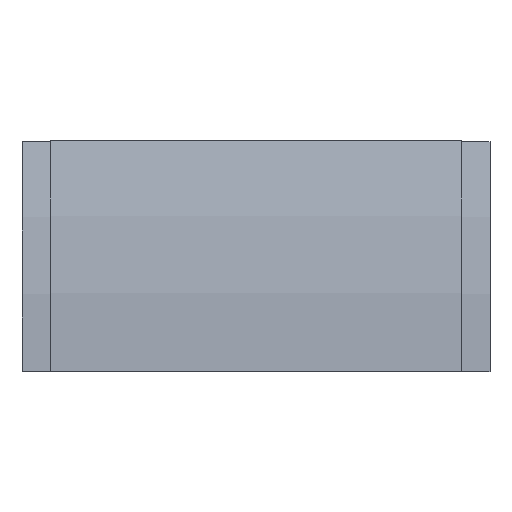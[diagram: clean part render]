
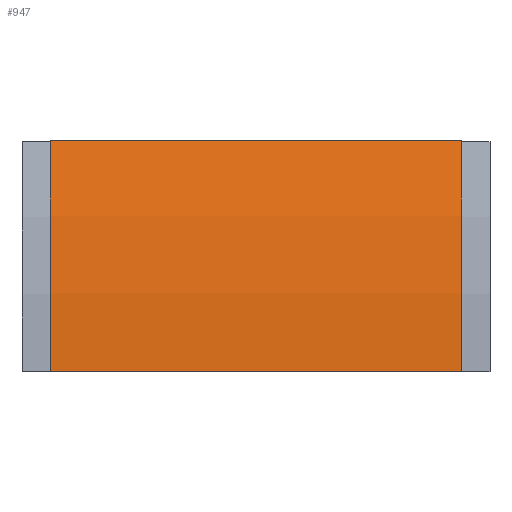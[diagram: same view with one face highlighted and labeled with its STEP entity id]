
A CAD part, front view. The second image highlights one B-rep face of the part: STEP entity #947.
In plain terms, the highlighted cylindrical face has radius 568 mm (diameter 1136 mm), a partial arc.
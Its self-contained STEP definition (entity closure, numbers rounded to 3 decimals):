
#16 = CARTESIAN_POINT ( 'NONE',  ( -152., -68., 0. ) ) ;
#25 = CARTESIAN_POINT ( 'NONE',  ( 152., -68., 0. ) ) ;
#28 = CARTESIAN_POINT ( 'NONE',  ( -152., -41.711, 170.801 ) ) ;
#31 = CARTESIAN_POINT ( 'NONE',  ( 152., -41.711, 170.801 ) ) ;
#125 = DIRECTION ( 'NONE',  ( 0., 0., -1. ) ) ;
#152 = CARTESIAN_POINT ( 'NONE',  ( 0., 500., 0. ) ) ;
#287 = DIRECTION ( 'NONE',  ( 1., 0., 0. ) ) ;
#288 = CARTESIAN_POINT ( 'NONE',  ( -152., -68., 0. ) ) ;
#289 = DIRECTION ( 'NONE',  ( 0., 0., -1. ) ) ;
#290 = DIRECTION ( 'NONE',  ( 1., 0., 0. ) ) ;
#291 = CARTESIAN_POINT ( 'NONE',  ( 152., 500., 0. ) ) ;
#293 = CARTESIAN_POINT ( 'NONE',  ( -152., -41.711, 170.801 ) ) ;
#306 = DIRECTION ( 'NONE',  ( 0., 0., -1. ) ) ;
#307 = DIRECTION ( 'NONE',  ( 1., 0., 0. ) ) ;
#308 = CARTESIAN_POINT ( 'NONE',  ( -152., 500., 0. ) ) ;
#310 = DIRECTION ( 'NONE',  ( 1., 0., 0. ) ) ;
#359 = DIRECTION ( 'NONE',  ( 1., 0., 0. ) ) ;
#466 = VECTOR ( 'NONE', #287, 1000. ) ;
#482 = VECTOR ( 'NONE', #310, 1000. ) ;
#483 = LINE ( 'NONE', #288, #466 ) ;
#490 = CYLINDRICAL_SURFACE ( 'NONE', #841, 568. ) ;
#497 = FACE_OUTER_BOUND ( 'NONE', #779, .T. ) ;
#500 = CIRCLE ( 'NONE', #869, 568. ) ;
#503 = LINE ( 'NONE', #293, #482 ) ;
#505 = CIRCLE ( 'NONE', #871, 568. ) ;
#660 = ORIENTED_EDGE ( 'NONE', *, *, #918, .F. ) ;
#690 = ORIENTED_EDGE ( 'NONE', *, *, #919, .F. ) ;
#691 = ORIENTED_EDGE ( 'NONE', *, *, #915, .T. ) ;
#703 = ORIENTED_EDGE ( 'NONE', *, *, #920, .T. ) ;
#751 = VERTEX_POINT ( 'NONE', #31 ) ;
#753 = VERTEX_POINT ( 'NONE', #28 ) ;
#755 = VERTEX_POINT ( 'NONE', #25 ) ;
#759 = VERTEX_POINT ( 'NONE', #16 ) ;
#779 = EDGE_LOOP ( 'NONE', ( #660, #690, #691, #703 ) ) ;
#841 = AXIS2_PLACEMENT_3D ( 'NONE', #152, #359, #125 ) ;
#869 = AXIS2_PLACEMENT_3D ( 'NONE', #291, #290, #289 ) ;
#871 = AXIS2_PLACEMENT_3D ( 'NONE', #308, #307, #306 ) ;
#915 = EDGE_CURVE ( 'NONE', #753, #759, #505, .T. ) ;
#918 = EDGE_CURVE ( 'NONE', #751, #755, #500, .T. ) ;
#919 = EDGE_CURVE ( 'NONE', #753, #751, #503, .T. ) ;
#920 = EDGE_CURVE ( 'NONE', #759, #755, #483, .T. ) ;
#947 = ADVANCED_FACE ( 'NONE', ( #497 ), #490, .T. ) ;
